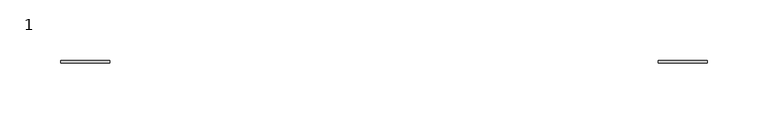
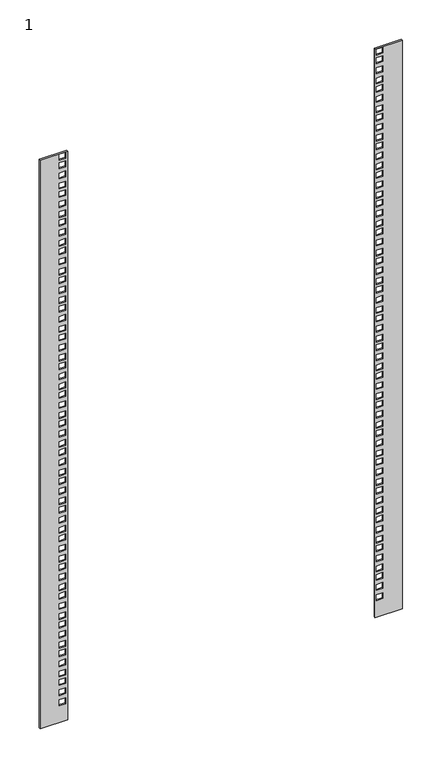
"""IFC4 building model written with IfcOpenShell, lengths in millimetres: proxy geometry, 1 : 18U 450мм стеклянная дверь."""

from ifc_helpers import new_model, si_unit, frame, origin, place, context, project, spatial, polyline, outline, extrude, source, transform, mapped, element, save


def proxy_1_c254fbed(model_context):
    return source(origin(), model_context, "Body", "SweptSolid", [
        extrude(outline(polyline([(900.4675, 265.3), (900.4675, 225.3), (20.4675, 225.3), (20.4675, 265.3), (900.4675, 265.3)]), holes=[polyline([(55.0175, 227.55), (55.0175, 237.05), (46.0675, 237.05), (46.0675, 227.55), (55.0175, 227.55)]), polyline([(70.6675, 227.55), (70.6675, 237.05), (61.7175, 237.05), (61.7175, 227.55), (70.6675, 227.55)]), polyline([(86.3175, 227.55), (86.3175, 237.05), (77.3675, 237.05), (77.3675, 227.55), (86.3175, 227.55)]), polyline([(99.4675, 237.05), (90.5175, 237.05), (90.5175, 227.55), (99.4675, 227.55), (99.4675, 237.05)]), polyline([(115.1175, 237.05), (106.1675, 237.05), (106.1675, 227.55), (115.1175, 227.55), (115.1175, 237.05)]), polyline([(130.7675, 237.05), (121.8175, 237.05), (121.8175, 227.55), (130.7675, 227.55), (130.7675, 237.05)]), polyline([(143.9175, 237.05), (134.9675, 237.05), (134.9675, 227.55), (143.9175, 227.55), (143.9175, 237.05)]), polyline([(159.5675, 237.05), (150.6175, 237.05), (150.6175, 227.55), (159.5675, 227.55), (159.5675, 237.05)]), polyline([(175.2175, 237.05), (166.2675, 237.05), (166.2675, 227.55), (175.2175, 227.55), (175.2175, 237.05)]), polyline([(188.3675, 237.05), (179.4175, 237.05), (179.4175, 227.55), (188.3675, 227.55), (188.3675, 237.05)]), polyline([(204.0175, 237.05), (195.0675, 237.05), (195.0675, 227.55), (204.0175, 227.55), (204.0175, 237.05)]), polyline([(219.6675, 237.05), (210.7175, 237.05), (210.7175, 227.55), (219.6675, 227.55), (219.6675, 237.05)]), polyline([(232.8175, 237.05), (223.8675, 237.05), (223.8675, 227.55), (232.8175, 227.55), (232.8175, 237.05)]), polyline([(248.4675, 237.05), (239.5175, 237.05), (239.5175, 227.55), (248.4675, 227.55), (248.4675, 237.05)]), polyline([(264.1175, 237.05), (255.1675, 237.05), (255.1675, 227.55), (264.1175, 227.55), (264.1175, 237.05)]), polyline([(277.2675, 237.05), (268.3175, 237.05), (268.3175, 227.55), (277.2675, 227.55), (277.2675, 237.05)]), polyline([(292.9175, 237.05), (283.9675, 237.05), (283.9675, 227.55), (292.9175, 227.55), (292.9175, 237.05)]), polyline([(308.5675, 237.05), (299.6175, 237.05), (299.6175, 227.55), (308.5675, 227.55), (308.5675, 237.05)]), polyline([(321.7175, 237.05), (312.7675, 237.05), (312.7675, 227.55), (321.7175, 227.55), (321.7175, 237.05)]), polyline([(337.3675, 237.05), (328.4175, 237.05), (328.4175, 227.55), (337.3675, 227.55), (337.3675, 237.05)]), polyline([(353.0175, 237.05), (344.0675, 237.05), (344.0675, 227.55), (353.0175, 227.55), (353.0175, 237.05)]), polyline([(366.1675, 237.05), (357.2175, 237.05), (357.2175, 227.55), (366.1675, 227.55), (366.1675, 237.05)]), polyline([(381.8175, 237.05), (372.8675, 237.05), (372.8675, 227.55), (381.8175, 227.55), (381.8175, 237.05)]), polyline([(397.4675, 237.05), (388.5175, 237.05), (388.5175, 227.55), (397.4675, 227.55), (397.4675, 237.05)]), polyline([(410.6175, 237.05), (401.6675, 237.05), (401.6675, 227.55), (410.6175, 227.55), (410.6175, 237.05)]), polyline([(426.2675, 237.05), (417.3175, 237.05), (417.3175, 227.55), (426.2675, 227.55), (426.2675, 237.05)]), polyline([(441.9175, 237.05), (432.9675, 237.05), (432.9675, 227.55), (441.9175, 227.55), (441.9175, 237.05)]), polyline([(455.0675, 237.05), (446.1175, 237.05), (446.1175, 227.55), (455.0675, 227.55), (455.0675, 237.05)]), polyline([(470.7175, 237.05), (461.7675, 237.05), (461.7675, 227.55), (470.7175, 227.55), (470.7175, 237.05)]), polyline([(486.3675, 237.05), (477.4175, 237.05), (477.4175, 227.55), (486.3675, 227.55), (486.3675, 237.05)]), polyline([(499.5175, 237.05), (490.5675, 237.05), (490.5675, 227.55), (499.5175, 227.55), (499.5175, 237.05)]), polyline([(515.1675, 237.05), (506.2175, 237.05), (506.2175, 227.55), (515.1675, 227.55), (515.1675, 237.05)]), polyline([(530.8175, 237.05), (521.8675, 237.05), (521.8675, 227.55), (530.8175, 227.55), (530.8175, 237.05)]), polyline([(543.9675, 237.05), (535.0175, 237.05), (535.0175, 227.55), (543.9675, 227.55), (543.9675, 237.05)]), polyline([(559.6175, 237.05), (550.6675, 237.05), (550.6675, 227.55), (559.6175, 227.55), (559.6175, 237.05)]), polyline([(575.2675, 237.05), (566.3175, 237.05), (566.3175, 227.55), (575.2675, 227.55), (575.2675, 237.05)]), polyline([(588.4175, 237.05), (579.4675, 237.05), (579.4675, 227.55), (588.4175, 227.55), (588.4175, 237.05)]), polyline([(604.0675, 237.05), (595.1175, 237.05), (595.1175, 227.55), (604.0675, 227.55), (604.0675, 237.05)]), polyline([(619.7175, 237.05), (610.7675, 237.05), (610.7675, 227.55), (619.7175, 227.55), (619.7175, 237.05)]), polyline([(632.8675, 237.05), (623.9175, 237.05), (623.9175, 227.55), (632.8675, 227.55), (632.8675, 237.05)]), polyline([(648.5175, 237.05), (639.5675, 237.05), (639.5675, 227.55), (648.5175, 227.55), (648.5175, 237.05)]), polyline([(664.1675, 237.05), (655.2175, 237.05), (655.2175, 227.55), (664.1675, 227.55), (664.1675, 237.05)]), polyline([(677.3175, 237.05), (668.3675, 237.05), (668.3675, 227.55), (677.3175, 227.55), (677.3175, 237.05)]), polyline([(692.9675, 237.05), (684.0175, 237.05), (684.0175, 227.55), (692.9675, 227.55), (692.9675, 237.05)]), polyline([(708.6175, 237.05), (699.6675, 237.05), (699.6675, 227.55), (708.6175, 227.55), (708.6175, 237.05)]), polyline([(721.7675, 237.05), (712.8175, 237.05), (712.8175, 227.55), (721.7675, 227.55), (721.7675, 237.05)]), polyline([(737.4175, 237.05), (728.4675, 237.05), (728.4675, 227.55), (737.4175, 227.55), (737.4175, 237.05)]), polyline([(753.0675, 237.05), (744.1175, 237.05), (744.1175, 227.55), (753.0675, 227.55), (753.0675, 237.05)]), polyline([(766.2175, 237.05), (757.2675, 237.05), (757.2675, 227.55), (766.2175, 227.55), (766.2175, 237.05)]), polyline([(781.8675, 237.05), (772.9175, 237.05), (772.9175, 227.55), (781.8675, 227.55), (781.8675, 237.05)]), polyline([(797.5175, 237.05), (788.5675, 237.05), (788.5675, 227.55), (797.5175, 227.55), (797.5175, 237.05)]), polyline([(810.6675, 237.05), (801.7175, 237.05), (801.7175, 227.55), (810.6675, 227.55), (810.6675, 237.05)]), polyline([(826.3175, 237.05), (817.3675, 237.05), (817.3675, 227.55), (826.3175, 227.55), (826.3175, 237.05)]), polyline([(841.9675, 237.05), (833.0175, 237.05), (833.0175, 227.55), (841.9675, 227.55), (841.9675, 237.05)]), polyline([(855.1175, 237.05), (846.1675, 237.05), (846.1675, 227.55), (855.1175, 227.55), (855.1175, 237.05)]), polyline([(870.7675, 237.05), (861.8175, 237.05), (861.8175, 227.55), (870.7675, 227.55), (870.7675, 237.05)]), polyline([(886.4175, 237.05), (877.4675, 237.05), (877.4675, 227.55), (886.4175, 227.55), (886.4175, 237.05)]), polyline([(899.5675, 237.05), (890.6175, 237.05), (890.6175, 227.55), (899.5675, 227.55), (899.5675, 237.05)])]), frame((0.0, -179.6777479, 0.0), z_axis=(0.0, 1.0, 0.0), x_axis=(0.0, 0.0, 1.0)), (0.0, 0.0, 1.0), 2.0),
        extrude(outline(polyline([(900.4675, -225.7), (900.4675, -265.7), (20.4675, -265.7), (20.4675, -225.7), (900.4675, -225.7)]), holes=[polyline([(55.0175, -237.45), (55.0175, -227.95), (46.0675, -227.95), (46.0675, -237.45), (55.0175, -237.45)]), polyline([(70.6675, -237.45), (70.6675, -227.95), (61.7175, -227.95), (61.7175, -237.45), (70.6675, -237.45)]), polyline([(86.3175, -237.45), (86.3175, -227.95), (77.3675, -227.95), (77.3675, -237.45), (86.3175, -237.45)]), polyline([(90.5175, -237.45), (99.4675, -237.45), (99.4675, -227.95), (90.5175, -227.95), (90.5175, -237.45)]), polyline([(106.1675, -237.45), (115.1175, -237.45), (115.1175, -227.95), (106.1675, -227.95), (106.1675, -237.45)]), polyline([(121.8175, -237.45), (130.7675, -237.45), (130.7675, -227.95), (121.8175, -227.95), (121.8175, -237.45)]), polyline([(134.9675, -237.45), (143.9175, -237.45), (143.9175, -227.95), (134.9675, -227.95), (134.9675, -237.45)]), polyline([(150.6175, -237.45), (159.5675, -237.45), (159.5675, -227.95), (150.6175, -227.95), (150.6175, -237.45)]), polyline([(166.2675, -237.45), (175.2175, -237.45), (175.2175, -227.95), (166.2675, -227.95), (166.2675, -237.45)]), polyline([(179.4175, -237.45), (188.3675, -237.45), (188.3675, -227.95), (179.4175, -227.95), (179.4175, -237.45)]), polyline([(195.0675, -237.45), (204.0175, -237.45), (204.0175, -227.95), (195.0675, -227.95), (195.0675, -237.45)]), polyline([(210.7175, -237.45), (219.6675, -237.45), (219.6675, -227.95), (210.7175, -227.95), (210.7175, -237.45)]), polyline([(223.8675, -237.45), (232.8175, -237.45), (232.8175, -227.95), (223.8675, -227.95), (223.8675, -237.45)]), polyline([(239.5175, -237.45), (248.4675, -237.45), (248.4675, -227.95), (239.5175, -227.95), (239.5175, -237.45)]), polyline([(255.1675, -237.45), (264.1175, -237.45), (264.1175, -227.95), (255.1675, -227.95), (255.1675, -237.45)]), polyline([(268.3175, -237.45), (277.2675, -237.45), (277.2675, -227.95), (268.3175, -227.95), (268.3175, -237.45)]), polyline([(283.9675, -237.45), (292.9175, -237.45), (292.9175, -227.95), (283.9675, -227.95), (283.9675, -237.45)]), polyline([(299.6175, -237.45), (308.5675, -237.45), (308.5675, -227.95), (299.6175, -227.95), (299.6175, -237.45)]), polyline([(312.7675, -237.45), (321.7175, -237.45), (321.7175, -227.95), (312.7675, -227.95), (312.7675, -237.45)]), polyline([(328.4175, -237.45), (337.3675, -237.45), (337.3675, -227.95), (328.4175, -227.95), (328.4175, -237.45)]), polyline([(344.0675, -237.45), (353.0175, -237.45), (353.0175, -227.95), (344.0675, -227.95), (344.0675, -237.45)]), polyline([(357.2175, -237.45), (366.1675, -237.45), (366.1675, -227.95), (357.2175, -227.95), (357.2175, -237.45)]), polyline([(372.8675, -237.45), (381.8175, -237.45), (381.8175, -227.95), (372.8675, -227.95), (372.8675, -237.45)]), polyline([(388.5175, -237.45), (397.4675, -237.45), (397.4675, -227.95), (388.5175, -227.95), (388.5175, -237.45)]), polyline([(401.6675, -237.45), (410.6175, -237.45), (410.6175, -227.95), (401.6675, -227.95), (401.6675, -237.45)]), polyline([(417.3175, -237.45), (426.2675, -237.45), (426.2675, -227.95), (417.3175, -227.95), (417.3175, -237.45)]), polyline([(432.9675, -237.45), (441.9175, -237.45), (441.9175, -227.95), (432.9675, -227.95), (432.9675, -237.45)]), polyline([(446.1175, -237.45), (455.0675, -237.45), (455.0675, -227.95), (446.1175, -227.95), (446.1175, -237.45)]), polyline([(461.7675, -237.45), (470.7175, -237.45), (470.7175, -227.95), (461.7675, -227.95), (461.7675, -237.45)]), polyline([(477.4175, -237.45), (486.3675, -237.45), (486.3675, -227.95), (477.4175, -227.95), (477.4175, -237.45)]), polyline([(490.5675, -237.45), (499.5175, -237.45), (499.5175, -227.95), (490.5675, -227.95), (490.5675, -237.45)]), polyline([(506.2175, -237.45), (515.1675, -237.45), (515.1675, -227.95), (506.2175, -227.95), (506.2175, -237.45)]), polyline([(521.8675, -237.45), (530.8175, -237.45), (530.8175, -227.95), (521.8675, -227.95), (521.8675, -237.45)]), polyline([(535.0175, -237.45), (543.9675, -237.45), (543.9675, -227.95), (535.0175, -227.95), (535.0175, -237.45)]), polyline([(550.6675, -237.45), (559.6175, -237.45), (559.6175, -227.95), (550.6675, -227.95), (550.6675, -237.45)]), polyline([(566.3175, -237.45), (575.2675, -237.45), (575.2675, -227.95), (566.3175, -227.95), (566.3175, -237.45)]), polyline([(579.4675, -237.45), (588.4175, -237.45), (588.4175, -227.95), (579.4675, -227.95), (579.4675, -237.45)]), polyline([(595.1175, -237.45), (604.0675, -237.45), (604.0675, -227.95), (595.1175, -227.95), (595.1175, -237.45)]), polyline([(610.7675, -237.45), (619.7175, -237.45), (619.7175, -227.95), (610.7675, -227.95), (610.7675, -237.45)]), polyline([(623.9175, -237.45), (632.8675, -237.45), (632.8675, -227.95), (623.9175, -227.95), (623.9175, -237.45)]), polyline([(639.5675, -237.45), (648.5175, -237.45), (648.5175, -227.95), (639.5675, -227.95), (639.5675, -237.45)]), polyline([(655.2175, -237.45), (664.1675, -237.45), (664.1675, -227.95), (655.2175, -227.95), (655.2175, -237.45)]), polyline([(668.3675, -237.45), (677.3175, -237.45), (677.3175, -227.95), (668.3675, -227.95), (668.3675, -237.45)]), polyline([(684.0175, -237.45), (692.9675, -237.45), (692.9675, -227.95), (684.0175, -227.95), (684.0175, -237.45)]), polyline([(699.6675, -237.45), (708.6175, -237.45), (708.6175, -227.95), (699.6675, -227.95), (699.6675, -237.45)]), polyline([(712.8175, -237.45), (721.7675, -237.45), (721.7675, -227.95), (712.8175, -227.95), (712.8175, -237.45)]), polyline([(728.4675, -237.45), (737.4175, -237.45), (737.4175, -227.95), (728.4675, -227.95), (728.4675, -237.45)]), polyline([(744.1175, -237.45), (753.0675, -237.45), (753.0675, -227.95), (744.1175, -227.95), (744.1175, -237.45)]), polyline([(757.2675, -237.45), (766.2175, -237.45), (766.2175, -227.95), (757.2675, -227.95), (757.2675, -237.45)]), polyline([(772.9175, -237.45), (781.8675, -237.45), (781.8675, -227.95), (772.9175, -227.95), (772.9175, -237.45)]), polyline([(788.5675, -237.45), (797.5175, -237.45), (797.5175, -227.95), (788.5675, -227.95), (788.5675, -237.45)]), polyline([(801.7175, -237.45), (810.6675, -237.45), (810.6675, -227.95), (801.7175, -227.95), (801.7175, -237.45)]), polyline([(817.3675, -237.45), (826.3175, -237.45), (826.3175, -227.95), (817.3675, -227.95), (817.3675, -237.45)]), polyline([(833.0175, -237.45), (841.9675, -237.45), (841.9675, -227.95), (833.0175, -227.95), (833.0175, -237.45)]), polyline([(846.1675, -237.45), (855.1175, -237.45), (855.1175, -227.95), (846.1675, -227.95), (846.1675, -237.45)]), polyline([(861.8175, -237.45), (870.7675, -237.45), (870.7675, -227.95), (861.8175, -227.95), (861.8175, -237.45)]), polyline([(877.4675, -237.45), (886.4175, -237.45), (886.4175, -227.95), (877.4675, -227.95), (877.4675, -237.45)]), polyline([(890.6175, -237.45), (899.5675, -237.45), (899.5675, -227.95), (890.6175, -227.95), (890.6175, -237.45)])]), frame((0.0, -179.6777479, 0.0), z_axis=(0.0, 1.0, 0.0), x_axis=(0.0, 0.0, 1.0)), (0.0, 0.0, 1.0), 2.0),
    ])


if __name__ == "__main__":
    model = new_model("IFC4")
    model_context = context("Model", 3, world=origin())
    ifc_project = project(units=[si_unit("LENGTHUNIT", "METRE", prefix="MILLI")], contexts=[model_context])
    site = spatial("IfcSite", under=ifc_project)
    building = spatial("IfcBuilding", under=site)
    placement = place(None, origin())
    proxy_1_shape = proxy_1_c254fbed(model_context)
    element("IfcBuildingElementProxy", 1, Name="1 : 18U 450мм стеклянная дверь", ObjectType="1 : 18U 450мм стеклянная дверь", at=placement, inside=building, context=model_context, shape_type="MappedRepresentation", body=[
        mapped(proxy_1_shape, transform((0.0, 0.0, 0.0), x_axis=(1.0, 0.0, 0.0), y_axis=(0.0, 1.0, 0.0), z_axis=(0.0, 0.0, 1.0))),
    ])
    save(model, "model.ifc")
